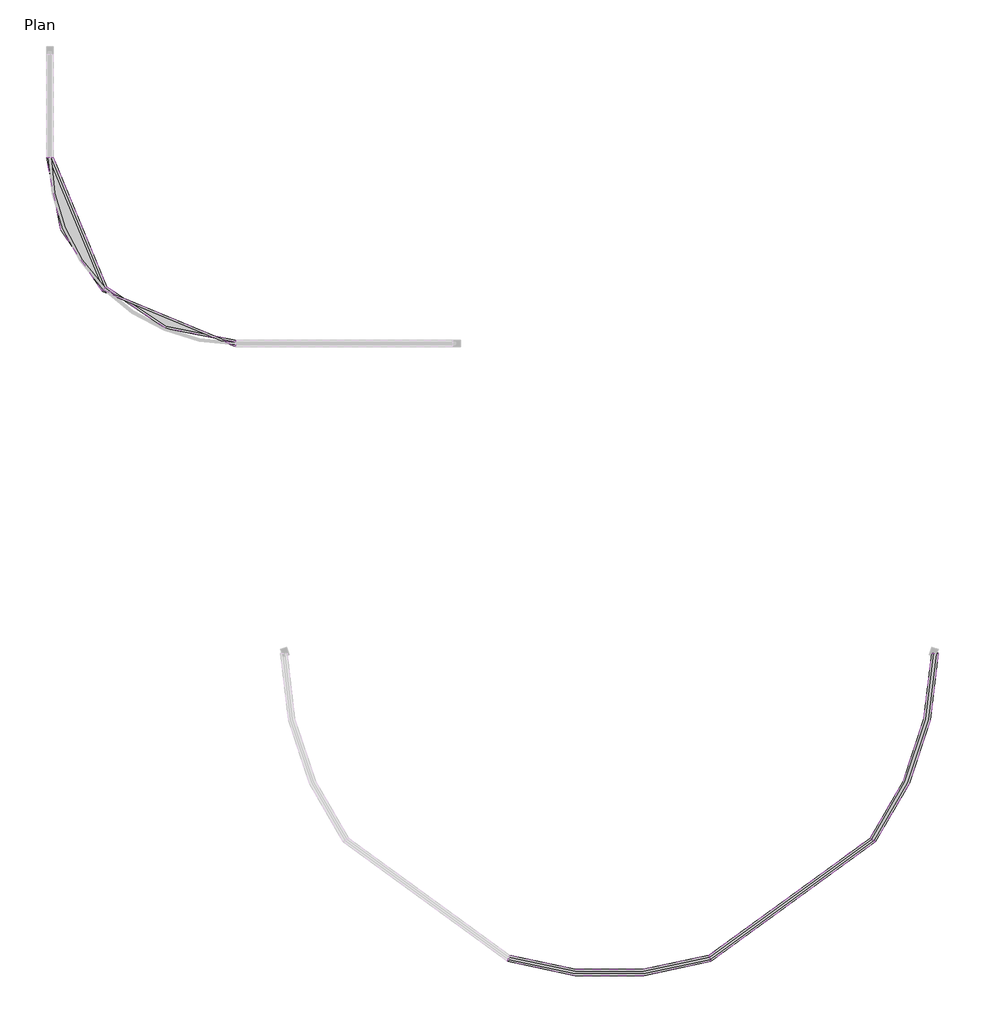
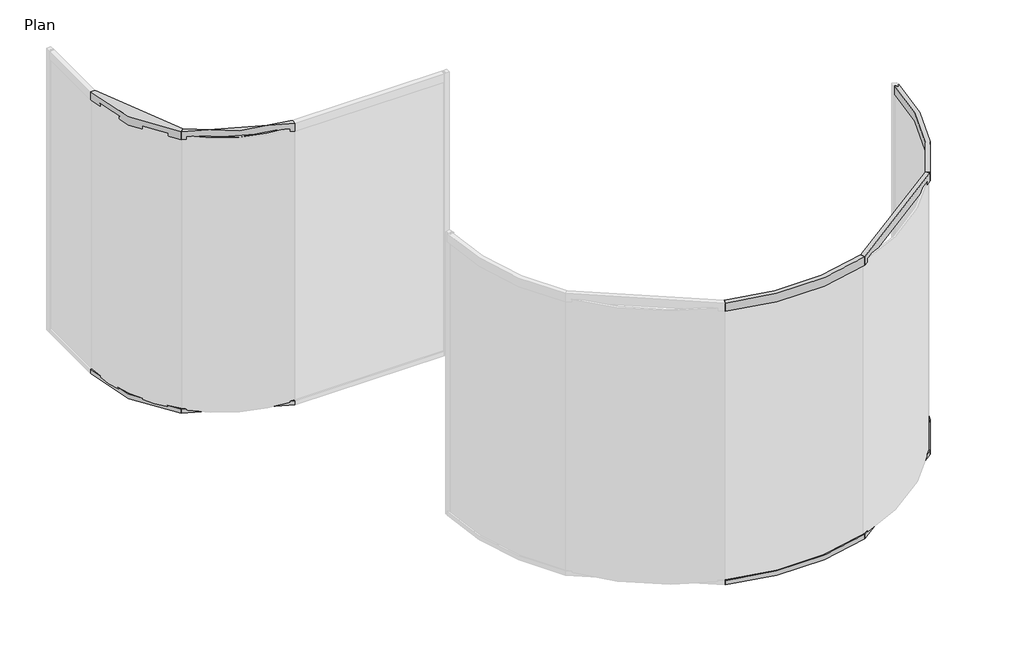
# One storey, part 2 of 2: 10 proxies.
"""IFC4 building model written with IfcOpenShell, lengths in millimetres."""

import ifcopenshell
import ifcopenshell.guid

model = None  # the IFC model being written
_history = None  # IfcOwnerHistory: only IFC2X3 demands one
_inside = {}  # id of a spatial element -> (the spatial element, [elements in it])
_under = {}  # id of a project, library or spatial element -> (it, [spatial elements below it])
_declared = {}  # id of a project -> (the project, [libraries it declares])
_typed = {}  # id of a type object -> (the type object, [elements of that type])
_made_of = {}  # id of a material, layer set ... -> (it, [elements and type objects made of it])


def new_model(schema):
    """Start an empty IFC model of exactly this schema.

    Asked for "IFC4X3", IfcOpenShell would pick the latest addendum, in which some entities
    have other attributes; the version numbers below select the first issue.
    IFC2X3 requires an IfcOwnerHistory on every rooted entity: one is made here for all.
    """
    global model, _history
    if schema == "IFC4X3":
        model = ifcopenshell.file(schema_version=(4, 3, 0, 0))
    else:
        model = ifcopenshell.file(schema=schema)
    _inside.clear()
    _under.clear()
    _declared.clear()
    _typed.clear()
    _made_of.clear()
    _history = None
    if model.schema == "IFC2X3":
        org = make("IfcOrganization", Name="unknown")
        user = make(
            "IfcPersonAndOrganization",
            ThePerson=make("IfcPerson", FamilyName="unknown"),
            TheOrganization=org,
        )
        app = make(
            "IfcApplication",
            ApplicationDeveloper=org,
            Version="unknown",
            ApplicationFullName="unknown",
            ApplicationIdentifier="unknown",
        )
        _history = make(
            "IfcOwnerHistory",
            OwningUser=user,
            OwningApplication=app,
            ChangeAction="ADDED",
            CreationDate=0,
        )
    return model


def make(cls, **values):
    """One entity of the class cls with the attributes given. An attribute that is None is left unset."""
    return model.create_entity(
        cls, **{name: value for name, value in values.items() if value is not None}
    )


def rooted(cls, **values):
    """An entity with a GlobalId (a new one), such as an element, a storey or a relation."""
    return make(cls, GlobalId=ifcopenshell.guid.new(), OwnerHistory=_history, **values)


def si_unit(unit_type, name, prefix=None):
    """IfcSIUnit, for example si_unit("LENGTHUNIT", "METRE", prefix="MILLI")."""
    return make("IfcSIUnit", UnitType=unit_type, Prefix=prefix, Name=name)


def assignment(units):
    """IfcUnitAssignment: the units of a project."""
    return None if units is None else make("IfcUnitAssignment", Units=units)


def point(xyz):
    """IfcCartesianPoint."""
    return None if xyz is None else make("IfcCartesianPoint", Coordinates=xyz)


def direction(xyz):
    """IfcDirection."""
    return None if xyz is None else make("IfcDirection", DirectionRatios=xyz)


def frame(location, z_axis=None, x_axis=None):
    """IfcAxis2Placement3D, a coordinate frame: its origin and axes. An axis left out is left unset."""
    return make(
        "IfcAxis2Placement3D",
        Location=point(location),
        Axis=direction(z_axis),
        RefDirection=direction(x_axis),
    )


def origin():
    """The frame at (0, 0, 0) with its axes left unset."""
    return frame((0.0, 0.0, 0.0))


def place(relative_to, where):
    """IfcLocalPlacement: puts the frame where relative to a parent placement (None: the world)."""
    return make(
        "IfcLocalPlacement", PlacementRelTo=relative_to, RelativePlacement=where
    )


def context(
    kind, dimensions, precision=None, world=None, true_north=None, identifier=None
):
    """IfcGeometricRepresentationContext, for example the 3D "Model" context."""
    return make(
        "IfcGeometricRepresentationContext",
        ContextIdentifier=identifier,
        ContextType=kind,
        CoordinateSpaceDimension=dimensions,
        Precision=precision,
        WorldCoordinateSystem=world,
        TrueNorth=true_north,
    )


def project(units=None, contexts=None):
    """IfcProject with its units and contexts."""
    return rooted(
        "IfcProject",
        Name="project",
        RepresentationContexts=contexts,
        UnitsInContext=assignment(units),
    )


def spatial(cls, under=None, at=None, **own):
    """A site, building, storey or space (cls), placed at a placement, below another one or the project."""
    s = rooted(cls, ObjectPlacement=at, **own)
    if under is not None:
        _under.setdefault(under.id(), (under, []))[1].append(s)
    return s


def polyline(points):
    """IfcPolyline through the points."""
    return make("IfcPolyline", Points=[point(p) for p in points])


def circle_curve(where, radius):
    """IfcCircle in the frame where."""
    return make("IfcCircle", Position=where, Radius=radius)


def shape(context_of_items, identifier, shape_type, items):
    """IfcShapeRepresentation: the items that make up one representation, for example the "Body"."""
    return make(
        "IfcShapeRepresentation",
        ContextOfItems=context_of_items,
        RepresentationIdentifier=identifier,
        RepresentationType=shape_type,
        Items=items,
    )


def made_of(thing, what):
    """Note that an element or type object is made of a material, layer set ...; save() writes the relation."""
    if what is not None:
        _made_of.setdefault(what.id(), (what, []))[1].append(thing)
    return thing


def element(
    cls,
    number,
    at=None,
    inside=None,
    cuts=None,
    type_object=None,
    material=None,
    context=None,
    identifier="Body",
    shape_type=None,
    held_by="IfcProductDefinitionShape",
    body=None,
    shapes=None,
    **own,
):
    """One element of the class cls, such as IfcWall. Its Tag is "e" and its number.

    at: its placement. inside: the storey or other place that contains it. cuts: it is an
    opening in that element (IfcRelVoidsElement). A single representation is given by context,
    identifier, shape_type and body (its items); several are given by shapes. held_by: the class
    of the entity that holds the representations. save() writes the other relations.
    """
    e = rooted(cls, Tag="e%d" % number, ObjectPlacement=at, **own)
    if body is not None:
        shapes = [shape(context, identifier, shape_type, body)]
    if shapes is not None:
        e.Representation = make(held_by, Representations=shapes)
    if inside is not None:
        _inside.setdefault(inside.id(), (inside, []))[1].append(e)
    if cuts is not None:
        rooted(
            "IfcRelVoidsElement", RelatingBuildingElement=cuts, RelatedOpeningElement=e
        )
    if type_object is not None:
        _typed.setdefault(type_object.id(), (type_object, []))[1].append(e)
    return made_of(e, material)


def aggregate(whole, parts):
    """IfcRelAggregates: a whole, such as a stair, and the parts it consists of."""
    return rooted("IfcRelAggregates", RelatingObject=whole, RelatedObjects=parts)


def save(model, path):
    """Write the relations noted so far, then the file.

    IfcRelAggregates (storeys below a building ...), IfcRelContainedInSpatialStructure (elements
    in a storey), IfcRelDefinesByType, IfcRelAssociatesMaterial and IfcRelDeclares: one each for
    every whole, place, type object, material and project.
    """
    for whole, parts in _under.values():
        aggregate(whole, parts)
    for where, things in _inside.values():
        rooted(
            "IfcRelContainedInSpatialStructure",
            RelatedElements=things,
            RelatingStructure=where,
        )
    for kind, things in _typed.values():
        rooted("IfcRelDefinesByType", RelatedObjects=things, RelatingType=kind)
    for what, things in _made_of.values():
        rooted("IfcRelAssociatesMaterial", RelatedObjects=things, RelatingMaterial=what)
    for by, libraries in _declared.values():
        rooted("IfcRelDeclares", RelatingContext=by, RelatedDefinitions=libraries)
    model.write(path)


def plane_surface(at):
    """IfcPlane: the flat surface through the origin of the frame at, square to its z axis."""
    return make("IfcPlane", Position=at)


def cylinder_surface(at, radius):
    """IfcCylindricalSurface: all points at the distance radius from the z axis of the frame at."""
    return make("IfcCylindricalSurface", Position=at, Radius=radius)


def revolved_surface(curve, axis_point, axis_direction):
    """IfcSurfaceOfRevolution: the curve turned about the line through axis_point along axis_direction."""
    return make(
        "IfcSurfaceOfRevolution",
        SweptCurve=make("IfcArbitraryOpenProfileDef", ProfileType="CURVE", Curve=curve),
        AxisPosition=make("IfcAxis1Placement", Location=point(axis_point), Axis=direction(axis_direction)),
    )


def advanced_brep(points, edges, surfaces, faces):
    """IfcAdvancedBrep: a solid bounded by faces that lie on surfaces and meet in shared edges.

    An edge is (start, end): straight between two places in points (the first is 0);
    or (start, end, curve); or (start, end, curve, False) where it runs against its curve.
    A face is (place in surfaces, loops), or (place, loops, False) where it looks against
    its surface's normal. A loop lists edges by number (the first is 1), with a minus sign
    where the edge is run from its end to its start. The first loop is the outer one.
    """
    corners = [point(p) for p in points]
    vertices = [make("IfcVertexPoint", VertexGeometry=c) for c in corners]
    made = []
    for start, end, *more in edges:
        made.append(
            make(
                "IfcEdgeCurve",
                EdgeStart=vertices[start],
                EdgeEnd=vertices[end],
                EdgeGeometry=more[0] if more else make("IfcPolyline", Points=[corners[start], corners[end]]),
                SameSense=more[1] if len(more) > 1 else True,
            )
        )
    hull = []
    for where, loops, *sense in faces:
        bounds = []
        for j, loop in enumerate(loops):
            ring = [make("IfcOrientedEdge", EdgeElement=made[abs(k) - 1], Orientation=k > 0) for k in loop]
            bounds.append(
                make(
                    "IfcFaceOuterBound" if j == 0 else "IfcFaceBound",
                    Bound=make("IfcEdgeLoop", EdgeList=ring),
                    Orientation=True,
                )
            )
        hull.append(make("IfcAdvancedFace", Bounds=bounds, FaceSurface=surfaces[where], SameSense=sense[0] if sense else True))
    return make("IfcAdvancedBrep", Outer=make("IfcClosedShell", CfsFaces=hull))


model = new_model("IFC4")

# Units and contexts
model_context = context("Model", 3, world=origin())
ifc_project = project(units=[si_unit("LENGTHUNIT", "METRE", prefix="MILLI")], contexts=[model_context])

# Site, building, storey
site = spatial("IfcSite", under=ifc_project)
building = spatial("IfcBuilding", under=site)
storey = spatial("IfcBuildingStorey", under=building, Name="Plan", Elevation=10972.8)

# Proxies
placement = place(None, origin())
element("IfcBuildingElementProxy", 1, Name="Wall Sweeps", at=placement, inside=storey, context=model_context, shape_type="AdvancedBrep", body=[
    advanced_brep(
    [(13959.5890345, 11448.9006767, 11004.55), (13966.3242266, 11455.6358688, 11004.55), (13966.3242266, 11455.6358688, 10995.025), (13975.3044827, 11464.616125, 10995.025), (13975.3044827, 11464.616125, 11004.55), (13982.0396748, 11471.3513171, 11004.55), (13982.0396748, 11471.3513171, 10972.8), (13959.5890345, 11448.9006767, 10972.8), (14617.3927954, 11176.4294376, 11004.55), (14617.3927954, 11176.4294376, 10972.8), (14617.3927954, 11208.1794376, 10972.8), (14617.3927954, 11208.1794376, 11004.55), (14617.3927954, 11198.6544376, 11004.55), (14617.3927954, 11198.6544376, 10995.025), (14617.3927954, 11185.9544376, 10995.025), (14617.3927954, 11185.9544376, 11004.55)],
    [
        (0, 1),
        (1, 2),
        (2, 3),
        (3, 4),
        (4, 5),
        (5, 6),
        (6, 7),
        (7, 0),
        (8, 9),
        (9, 10),
        (10, 11),
        (11, 12),
        (12, 13),
        (13, 14),
        (14, 15),
        (15, 8),
        (15, 1, circle_curve(frame((14617.3927954, 12106.7044376, 11004.55), z_axis=(0.0, 0.0, -1.0), x_axis=(-0.7071067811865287, -0.7071067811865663, 0.0)), 920.75)),
        (0, 8, circle_curve(frame((14617.3927954, 12106.7044376, 11004.55), z_axis=(0.0, 0.0, 1.0), x_axis=(-0.7071067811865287, -0.7071067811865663, 0.0)), 930.275)),
        (14, 2, circle_curve(frame((14617.3927954, 12106.7044376, 10995.025), z_axis=(0.0, 0.0, -1.0), x_axis=(-0.7071067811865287, -0.7071067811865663, 0.0)), 920.75)),
        (13, 3, circle_curve(frame((14617.3927954, 12106.7044376, 10995.025), z_axis=(0.0, 0.0, -1.0), x_axis=(-0.7071067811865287, -0.7071067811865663, 0.0)), 908.05)),
        (12, 4, circle_curve(frame((14617.3927954, 12106.7044376, 11004.55), z_axis=(0.0, 0.0, -1.0), x_axis=(-0.7071067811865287, -0.7071067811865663, 0.0)), 908.05)),
        (11, 5, circle_curve(frame((14617.3927954, 12106.7044376, 11004.55), z_axis=(0.0, 0.0, -1.0), x_axis=(-0.7071067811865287, -0.7071067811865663, 0.0)), 898.525)),
        (10, 6, circle_curve(frame((14617.3927954, 12106.7044376, 10972.8), z_axis=(0.0, 0.0, -1.0), x_axis=(-0.7071067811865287, -0.7071067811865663, 0.0)), 898.525)),
        (9, 7, circle_curve(frame((14617.3927954, 12106.7044376, 10972.8), z_axis=(0.0, 0.0, -1.0), x_axis=(-0.7071067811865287, -0.7071067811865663, 0.0)), 930.275)),
    ],
    [
        plane_surface(frame((14617.3927954, 12106.7044376, 10972.8), z_axis=(-0.7071067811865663, 0.7071067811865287, 0.0), x_axis=(-0.7071067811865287, -0.7071067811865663, 0.0))),
        plane_surface(frame((14617.3927954, 12106.7044376, 10972.8), z_axis=(1.0, 0.0, 0.0), x_axis=(0.0, -1.0, 0.0))),
        plane_surface(frame((14617.3927954, 12106.7044376, 11004.55), z_axis=(0.0, 0.0, 1.0), x_axis=(-0.7071067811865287, -0.7071067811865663, 0.0))),
        revolved_surface(polyline([(13966.324226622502, 11455.635868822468, 11004.55), (13966.324226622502, 11455.635868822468, 10995.025)]), (14617.3927954, 12106.7044376, 10972.8), (0.0, 0.0, 1.0)),
        plane_surface(frame((14617.3927954, 12106.7044376, 10995.025), z_axis=(0.0, 0.0, 1.0), x_axis=(-0.7071067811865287, -0.7071067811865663, 0.0))),
        cylinder_surface(frame((14617.3927954, 12106.7044376, 10972.8), z_axis=(0.0, 0.0, 1.0), x_axis=(-0.7071067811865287, -0.7071067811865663, 0.0)), 908.05),
        revolved_surface(polyline([(13982.039674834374, 11471.35131703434, 11004.55), (13982.039674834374, 11471.35131703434, 10972.8)]), (14617.3927954, 12106.7044376, 10972.8), (0.0, 0.0, 1.0)),
        plane_surface(frame((14617.3927954, 12106.7044376, 10972.8), z_axis=(0.0, 0.0, -1.0), x_axis=(-0.7071067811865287, -0.7071067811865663, 0.0))),
        cylinder_surface(frame((14617.3927954, 12106.7044376, 10972.8), z_axis=(0.0, 0.0, 1.0), x_axis=(-0.7071067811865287, -0.7071067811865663, 0.0)), 930.275),
    ],
    [
        (0, [[1, 2, 3, 4, 5, 6, 7, 8]]),
        (1, [[9, 10, 11, 12, 13, 14, 15, 16]]),
        (2, [[17, -1, 18, -16]]),
        (3, [[19, -2, -17, -15]]),
        (4, [[20, -3, -19, -14]]),
        (5, [[21, -4, -20, -13]]),
        (2, [[22, -5, -21, -12]]),
        (6, [[23, -6, -22, -11]]),
        (7, [[24, -7, -23, -10]]),
        (8, [[-18, -8, -24, -9]]),
    ],
),
])
element("IfcBuildingElementProxy", 2, Name="Wall Sweeps", at=placement, inside=storey, context=model_context, shape_type="AdvancedBrep", body=[
    advanced_brep(
    [(13982.0396748, 11471.3513171, 13042.9), (13975.3044827, 11464.616125, 13042.9), (13975.3044827, 11464.616125, 13065.125), (13966.3242266, 11455.6358688, 13065.125), (13966.3242266, 11455.6358688, 13042.9), (13959.5890345, 11448.9006767, 13042.9), (13959.5890345, 11448.9006767, 13106.4), (13982.0396748, 11471.3513171, 13106.4), (14617.3927954, 11208.1794376, 13042.9), (14617.3927954, 11208.1794376, 13106.4), (14617.3927954, 11176.4294376, 13106.4), (14617.3927954, 11176.4294376, 13042.9), (14617.3927954, 11185.9544376, 13042.9), (14617.3927954, 11185.9544376, 13065.125), (14617.3927954, 11198.6544376, 13065.125), (14617.3927954, 11198.6544376, 13042.9)],
    [
        (0, 1),
        (1, 2),
        (2, 3),
        (3, 4),
        (4, 5),
        (5, 6),
        (6, 7),
        (7, 0),
        (8, 9),
        (9, 10),
        (10, 11),
        (11, 12),
        (12, 13),
        (13, 14),
        (14, 15),
        (15, 8),
        (15, 1, circle_curve(frame((14617.3927954, 12106.7044376, 13042.9), z_axis=(0.0, 0.0, -1.0), x_axis=(-0.7071067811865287, -0.7071067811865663, 0.0)), 908.05)),
        (0, 8, circle_curve(frame((14617.3927954, 12106.7044376, 13042.9), z_axis=(0.0, 0.0, 1.0), x_axis=(-0.7071067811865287, -0.7071067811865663, 0.0)), 898.525)),
        (14, 2, circle_curve(frame((14617.3927954, 12106.7044376, 13065.125), z_axis=(0.0, 0.0, -1.0), x_axis=(-0.7071067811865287, -0.7071067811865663, 0.0)), 908.05)),
        (13, 3, circle_curve(frame((14617.3927954, 12106.7044376, 13065.125), z_axis=(0.0, 0.0, -1.0), x_axis=(-0.7071067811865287, -0.7071067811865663, 0.0)), 920.75)),
        (12, 4, circle_curve(frame((14617.3927954, 12106.7044376, 13042.9), z_axis=(0.0, 0.0, -1.0), x_axis=(-0.7071067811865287, -0.7071067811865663, 0.0)), 920.75)),
        (11, 5, circle_curve(frame((14617.3927954, 12106.7044376, 13042.9), z_axis=(0.0, 0.0, -1.0), x_axis=(-0.7071067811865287, -0.7071067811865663, 0.0)), 930.275)),
        (10, 6, circle_curve(frame((14617.3927954, 12106.7044376, 13106.4), z_axis=(0.0, 0.0, -1.0), x_axis=(-0.7071067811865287, -0.7071067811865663, 0.0)), 930.275)),
        (9, 7, circle_curve(frame((14617.3927954, 12106.7044376, 13106.4), z_axis=(0.0, 0.0, -1.0), x_axis=(-0.7071067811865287, -0.7071067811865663, 0.0)), 898.525)),
    ],
    [
        plane_surface(frame((14617.3927954, 12106.7044376, 13106.4), z_axis=(-0.7071067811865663, 0.7071067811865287, 0.0), x_axis=(-0.7071067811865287, -0.7071067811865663, 0.0))),
        plane_surface(frame((14617.3927954, 12106.7044376, 13106.4), z_axis=(1.0, 0.0, 0.0), x_axis=(0.0, -1.0, 0.0))),
        plane_surface(frame((14617.3927954, 12106.7044376, 13042.9), z_axis=(0.0, 0.0, -1.0), x_axis=(-0.7071067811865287, -0.7071067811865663, 0.0))),
        cylinder_surface(frame((14617.3927954, 12106.7044376, 13106.4), z_axis=(0.0, 0.0, 1.0), x_axis=(-0.7071067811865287, -0.7071067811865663, 0.0)), 908.05),
        plane_surface(frame((14617.3927954, 12106.7044376, 13065.125), z_axis=(0.0, 0.0, -1.0), x_axis=(-0.7071067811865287, -0.7071067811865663, 0.0))),
        revolved_surface(polyline([(13966.324226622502, 11455.635868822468, 13065.125), (13966.324226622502, 11455.635868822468, 13042.9)]), (14617.3927954, 12106.7044376, 13106.4), (0.0, 0.0, 1.0)),
        cylinder_surface(frame((14617.3927954, 12106.7044376, 13106.4), z_axis=(0.0, 0.0, 1.0), x_axis=(-0.7071067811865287, -0.7071067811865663, 0.0)), 930.275),
        plane_surface(frame((14617.3927954, 12106.7044376, 13106.4), z_axis=(0.0, 0.0, 1.0), x_axis=(-0.7071067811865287, -0.7071067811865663, 0.0))),
        revolved_surface(polyline([(13982.039674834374, 11471.35131703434, 13106.4), (13982.039674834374, 11471.35131703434, 13042.9)]), (14617.3927954, 12106.7044376, 13106.4), (0.0, 0.0, 1.0)),
    ],
    [
        (0, [[1, 2, 3, 4, 5, 6, 7, 8]]),
        (1, [[9, 10, 11, 12, 13, 14, 15, 16]]),
        (2, [[17, -1, 18, -16]]),
        (3, [[19, -2, -17, -15]]),
        (4, [[20, -3, -19, -14]]),
        (5, [[21, -4, -20, -13]]),
        (2, [[22, -5, -21, -12]]),
        (6, [[23, -6, -22, -11]]),
        (7, [[24, -7, -23, -10]]),
        (8, [[-18, -8, -24, -9]]),
    ],
),
])
element("IfcBuildingElementProxy", 3, Name="Wall Sweeps", at=placement, inside=storey, context=model_context, shape_type="AdvancedBrep", body=[
    advanced_brep(
    [(13687.1177954, 12106.7044376, 11004.55), (13696.6427954, 12106.7044376, 11004.55), (13696.6427954, 12106.7044376, 10995.025), (13709.3427954, 12106.7044376, 10995.025), (13709.3427954, 12106.7044376, 11004.55), (13718.8677954, 12106.7044376, 11004.55), (13718.8677954, 12106.7044376, 10972.8), (13687.1177954, 12106.7044376, 10972.8), (13959.5890345, 11448.9006767, 11004.55), (13959.5890345, 11448.9006767, 10972.8), (13982.0396748, 11471.3513171, 10972.8), (13982.0396748, 11471.3513171, 11004.55), (13975.3044827, 11464.616125, 11004.55), (13975.3044827, 11464.616125, 10995.025), (13966.3242266, 11455.6358688, 10995.025), (13966.3242266, 11455.6358688, 11004.55)],
    [
        (0, 1),
        (1, 2),
        (2, 3),
        (3, 4),
        (4, 5),
        (5, 6),
        (6, 7),
        (7, 0),
        (8, 9),
        (9, 10),
        (10, 11),
        (11, 12),
        (12, 13),
        (13, 14),
        (14, 15),
        (15, 8),
        (15, 1, circle_curve(frame((14617.3927954, 12106.7044376, 11004.55), z_axis=(0.0, 0.0, -1.0), x_axis=(-1.0, 0.0, 0.0)), 920.75)),
        (0, 8, circle_curve(frame((14617.3927954, 12106.7044376, 11004.55), z_axis=(0.0, 0.0, 1.0), x_axis=(-1.0, 0.0, 0.0)), 930.275)),
        (14, 2, circle_curve(frame((14617.3927954, 12106.7044376, 10995.025), z_axis=(0.0, 0.0, -1.0), x_axis=(-1.0, 0.0, 0.0)), 920.75)),
        (13, 3, circle_curve(frame((14617.3927954, 12106.7044376, 10995.025), z_axis=(0.0, 0.0, -1.0), x_axis=(-1.0, 0.0, 0.0)), 908.05)),
        (12, 4, circle_curve(frame((14617.3927954, 12106.7044376, 11004.55), z_axis=(0.0, 0.0, -1.0), x_axis=(-1.0, 0.0, 0.0)), 908.05)),
        (11, 5, circle_curve(frame((14617.3927954, 12106.7044376, 11004.55), z_axis=(0.0, 0.0, -1.0), x_axis=(-1.0, 0.0, 0.0)), 898.525)),
        (10, 6, circle_curve(frame((14617.3927954, 12106.7044376, 10972.8), z_axis=(0.0, 0.0, -1.0), x_axis=(-1.0, 0.0, 0.0)), 898.525)),
        (9, 7, circle_curve(frame((14617.3927954, 12106.7044376, 10972.8), z_axis=(0.0, 0.0, -1.0), x_axis=(-1.0, 0.0, 0.0)), 930.275)),
    ],
    [
        plane_surface(frame((14617.3927954, 12106.7044376, 10972.8), z_axis=(0.0, 1.0, 0.0), x_axis=(-1.0, 0.0, 0.0))),
        plane_surface(frame((14617.3927954, 12106.7044376, 10972.8), z_axis=(0.7071067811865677, -0.7071067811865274, 0.0), x_axis=(-0.7071067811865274, -0.7071067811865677, 0.0))),
        plane_surface(frame((14617.3927954, 12106.7044376, 11004.55), z_axis=(0.0, 0.0, 1.0), x_axis=(-1.0, 0.0, 0.0))),
        revolved_surface(polyline([(13696.6427954, 12106.7044376, 11004.55), (13696.6427954, 12106.7044376, 10995.025)]), (14617.3927954, 12106.7044376, 10972.8), (0.0, 0.0, 1.0)),
        plane_surface(frame((14617.3927954, 12106.7044376, 10995.025), z_axis=(0.0, 0.0, 1.0), x_axis=(-1.0, 0.0, 0.0))),
        cylinder_surface(frame((14617.3927954, 12106.7044376, 10972.8), z_axis=(0.0, 0.0, 1.0), x_axis=(-1.0, 0.0, 0.0)), 908.05),
        revolved_surface(polyline([(13718.8677954, 12106.7044376, 11004.55), (13718.8677954, 12106.7044376, 10972.8)]), (14617.3927954, 12106.7044376, 10972.8), (0.0, 0.0, 1.0)),
        plane_surface(frame((14617.3927954, 12106.7044376, 10972.8), z_axis=(0.0, 0.0, -1.0), x_axis=(-1.0, 0.0, 0.0))),
        cylinder_surface(frame((14617.3927954, 12106.7044376, 10972.8), z_axis=(0.0, 0.0, 1.0), x_axis=(-1.0, 0.0, 0.0)), 930.275),
    ],
    [
        (0, [[1, 2, 3, 4, 5, 6, 7, 8]]),
        (1, [[9, 10, 11, 12, 13, 14, 15, 16]]),
        (2, [[17, -1, 18, -16]]),
        (3, [[19, -2, -17, -15]]),
        (4, [[20, -3, -19, -14]]),
        (5, [[21, -4, -20, -13]]),
        (2, [[22, -5, -21, -12]]),
        (6, [[23, -6, -22, -11]]),
        (7, [[24, -7, -23, -10]]),
        (8, [[-18, -8, -24, -9]]),
    ],
),
])
element("IfcBuildingElementProxy", 4, Name="Wall Sweeps", at=placement, inside=storey, context=model_context, shape_type="AdvancedBrep", body=[
    advanced_brep(
    [(13718.8677954, 12106.7044376, 13042.9), (13709.3427954, 12106.7044376, 13042.9), (13709.3427954, 12106.7044376, 13065.125), (13696.6427954, 12106.7044376, 13065.125), (13696.6427954, 12106.7044376, 13042.9), (13687.1177954, 12106.7044376, 13042.9), (13687.1177954, 12106.7044376, 13106.4), (13718.8677954, 12106.7044376, 13106.4), (13982.0396748, 11471.3513171, 13042.9), (13982.0396748, 11471.3513171, 13106.4), (13959.5890345, 11448.9006767, 13106.4), (13959.5890345, 11448.9006767, 13042.9), (13966.3242266, 11455.6358688, 13042.9), (13966.3242266, 11455.6358688, 13065.125), (13975.3044827, 11464.616125, 13065.125), (13975.3044827, 11464.616125, 13042.9)],
    [
        (0, 1),
        (1, 2),
        (2, 3),
        (3, 4),
        (4, 5),
        (5, 6),
        (6, 7),
        (7, 0),
        (8, 9),
        (9, 10),
        (10, 11),
        (11, 12),
        (12, 13),
        (13, 14),
        (14, 15),
        (15, 8),
        (15, 1, circle_curve(frame((14617.3927954, 12106.7044376, 13042.9), z_axis=(0.0, 0.0, -1.0), x_axis=(-1.0, 0.0, 0.0)), 908.05)),
        (0, 8, circle_curve(frame((14617.3927954, 12106.7044376, 13042.9), z_axis=(0.0, 0.0, 1.0), x_axis=(-1.0, 0.0, 0.0)), 898.525)),
        (14, 2, circle_curve(frame((14617.3927954, 12106.7044376, 13065.125), z_axis=(0.0, 0.0, -1.0), x_axis=(-1.0, 0.0, 0.0)), 908.05)),
        (13, 3, circle_curve(frame((14617.3927954, 12106.7044376, 13065.125), z_axis=(0.0, 0.0, -1.0), x_axis=(-1.0, 0.0, 0.0)), 920.75)),
        (12, 4, circle_curve(frame((14617.3927954, 12106.7044376, 13042.9), z_axis=(0.0, 0.0, -1.0), x_axis=(-1.0, 0.0, 0.0)), 920.75)),
        (11, 5, circle_curve(frame((14617.3927954, 12106.7044376, 13042.9), z_axis=(0.0, 0.0, -1.0), x_axis=(-1.0, 0.0, 0.0)), 930.275)),
        (10, 6, circle_curve(frame((14617.3927954, 12106.7044376, 13106.4), z_axis=(0.0, 0.0, -1.0), x_axis=(-1.0, 0.0, 0.0)), 930.275)),
        (9, 7, circle_curve(frame((14617.3927954, 12106.7044376, 13106.4), z_axis=(0.0, 0.0, -1.0), x_axis=(-1.0, 0.0, 0.0)), 898.525)),
    ],
    [
        plane_surface(frame((14617.3927954, 12106.7044376, 13106.4), z_axis=(0.0, 1.0, 0.0), x_axis=(-1.0, 0.0, 0.0))),
        plane_surface(frame((14617.3927954, 12106.7044376, 13106.4), z_axis=(0.7071067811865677, -0.7071067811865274, 0.0), x_axis=(-0.7071067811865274, -0.7071067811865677, 0.0))),
        plane_surface(frame((14617.3927954, 12106.7044376, 13042.9), z_axis=(0.0, 0.0, -1.0), x_axis=(-1.0, 0.0, 0.0))),
        cylinder_surface(frame((14617.3927954, 12106.7044376, 13106.4), z_axis=(0.0, 0.0, 1.0), x_axis=(-1.0, 0.0, 0.0)), 908.05),
        plane_surface(frame((14617.3927954, 12106.7044376, 13065.125), z_axis=(0.0, 0.0, -1.0), x_axis=(-1.0, 0.0, 0.0))),
        revolved_surface(polyline([(13696.6427954, 12106.7044376, 13065.125), (13696.6427954, 12106.7044376, 13042.9)]), (14617.3927954, 12106.7044376, 13106.4), (0.0, 0.0, 1.0)),
        cylinder_surface(frame((14617.3927954, 12106.7044376, 13106.4), z_axis=(0.0, 0.0, 1.0), x_axis=(-1.0, 0.0, 0.0)), 930.275),
        plane_surface(frame((14617.3927954, 12106.7044376, 13106.4), z_axis=(0.0, 0.0, 1.0), x_axis=(-1.0, 0.0, 0.0))),
        revolved_surface(polyline([(13718.8677954, 12106.7044376, 13106.4), (13718.8677954, 12106.7044376, 13042.9)]), (14617.3927954, 12106.7044376, 13106.4), (0.0, 0.0, 1.0)),
    ],
    [
        (0, [[1, 2, 3, 4, 5, 6, 7, 8]]),
        (1, [[9, 10, 11, 12, 13, 14, 15, 16]]),
        (2, [[17, -1, 18, -16]]),
        (3, [[19, -2, -17, -15]]),
        (4, [[20, -3, -19, -14]]),
        (5, [[21, -4, -20, -13]]),
        (2, [[22, -5, -21, -12]]),
        (6, [[23, -6, -22, -11]]),
        (7, [[24, -7, -23, -10]]),
        (8, [[-18, -8, -24, -9]]),
    ],
),
])
element("IfcBuildingElementProxy", 5, Name="Wall Sweeps", at=placement, inside=storey, context=model_context, shape_type="AdvancedBrep", body=[
    advanced_brep(
    [(17760.1923581, 8744.306162, 11004.55), (17752.4864712, 8749.9048166, 11004.55), (17752.4864712, 8749.9048166, 10995.025), (17742.2119554, 8757.3696893, 10995.025), (17742.2119554, 8757.3696893, 11004.55), (17734.5060685, 8762.9683438, 11004.55), (17734.5060685, 8762.9683438, 10972.8), (17760.1923581, 8744.306162, 10972.8), (18068.6492854, 9669.6972931, 11004.55), (18068.6492854, 9669.6972931, 10972.8), (18036.9029383, 9670.1789026, 10972.8), (18036.9029383, 9670.1789026, 11004.55), (18046.4268424, 9670.0344197, 11004.55), (18046.4268424, 9670.0344197, 10995.025), (18059.1253813, 9669.8417759, 10995.025), (18059.1253813, 9669.8417759, 11004.55)],
    [
        (0, 1),
        (1, 2),
        (2, 3),
        (3, 4),
        (4, 5),
        (5, 6),
        (6, 7),
        (7, 0),
        (8, 9),
        (9, 10),
        (10, 11),
        (11, 12),
        (12, 13),
        (13, 14),
        (14, 15),
        (15, 8),
        (15, 1, circle_curve(frame((16452.7602195, 9694.2112144, 11004.55), z_axis=(0.0, 0.0, -1.0), x_axis=(0.8090169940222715, -0.58778525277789, 0.0)), 1606.55)),
        (0, 8, circle_curve(frame((16452.7602195, 9694.2112144, 11004.55), z_axis=(0.0, 0.0, 1.0), x_axis=(0.8090169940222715, -0.58778525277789, 0.0)), 1616.075)),
        (14, 2, circle_curve(frame((16452.7602195, 9694.2112144, 10995.025), z_axis=(0.0, 0.0, -1.0), x_axis=(0.8090169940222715, -0.58778525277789, 0.0)), 1606.55)),
        (13, 3, circle_curve(frame((16452.7602195, 9694.2112144, 10995.025), z_axis=(0.0, 0.0, -1.0), x_axis=(0.8090169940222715, -0.58778525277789, 0.0)), 1593.85)),
        (12, 4, circle_curve(frame((16452.7602195, 9694.2112144, 11004.55), z_axis=(0.0, 0.0, -1.0), x_axis=(0.8090169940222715, -0.58778525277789, 0.0)), 1593.85)),
        (11, 5, circle_curve(frame((16452.7602195, 9694.2112144, 11004.55), z_axis=(0.0, 0.0, -1.0), x_axis=(0.8090169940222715, -0.58778525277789, 0.0)), 1584.325)),
        (10, 6, circle_curve(frame((16452.7602195, 9694.2112144, 10972.8), z_axis=(0.0, 0.0, -1.0), x_axis=(0.8090169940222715, -0.58778525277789, 0.0)), 1584.325)),
        (9, 7, circle_curve(frame((16452.7602195, 9694.2112144, 10972.8), z_axis=(0.0, 0.0, -1.0), x_axis=(0.8090169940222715, -0.58778525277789, 0.0)), 1616.075)),
    ],
    [
        plane_surface(frame((16452.7602195, 9694.2112144, 10972.8), z_axis=(-0.58778525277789, -0.8090169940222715, 0.0), x_axis=(0.8090169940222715, -0.58778525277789, 0.0))),
        plane_surface(frame((16452.7602195, 9694.2112144, 10972.8), z_axis=(0.015168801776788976, 0.9998849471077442, 0.0), x_axis=(0.9998849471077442, -0.015168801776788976, 0.0))),
        plane_surface(frame((16452.7602195, 9694.2112144, 11004.55), z_axis=(0.0, 0.0, 1.0), x_axis=(0.8090169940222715, -0.58778525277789, 0.0))),
        revolved_surface(polyline([(17752.48647124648, 8749.90481654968, 11004.55), (17752.48647124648, 8749.90481654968, 10995.025)]), (16452.7602195, 9694.2112144, 10972.8), (0.0, 0.0, 1.0)),
        plane_surface(frame((16452.7602195, 9694.2112144, 10995.025), z_axis=(0.0, 0.0, 1.0), x_axis=(0.8090169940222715, -0.58778525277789, 0.0))),
        cylinder_surface(frame((16452.7602195, 9694.2112144, 10972.8), z_axis=(0.0, 0.0, 1.0), x_axis=(0.8090169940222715, -0.58778525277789, 0.0)), 1593.85),
        revolved_surface(polyline([(17734.506068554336, 8762.96834379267, 11004.55), (17734.506068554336, 8762.96834379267, 10972.8)]), (16452.7602195, 9694.2112144, 10972.8), (0.0, 0.0, 1.0)),
        plane_surface(frame((16452.7602195, 9694.2112144, 10972.8), z_axis=(0.0, 0.0, -1.0), x_axis=(0.8090169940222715, -0.58778525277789, 0.0))),
        cylinder_surface(frame((16452.7602195, 9694.2112144, 10972.8), z_axis=(0.0, 0.0, 1.0), x_axis=(0.8090169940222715, -0.58778525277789, 0.0)), 1616.075),
    ],
    [
        (0, [[1, 2, 3, 4, 5, 6, 7, 8]]),
        (1, [[9, 10, 11, 12, 13, 14, 15, 16]]),
        (2, [[17, -1, 18, -16]]),
        (3, [[19, -2, -17, -15]]),
        (4, [[20, -3, -19, -14]]),
        (5, [[21, -4, -20, -13]]),
        (2, [[22, -5, -21, -12]]),
        (6, [[23, -6, -22, -11]]),
        (7, [[24, -7, -23, -10]]),
        (8, [[-18, -8, -24, -9]]),
    ],
),
])
element("IfcBuildingElementProxy", 6, Name="Wall Sweeps", at=placement, inside=storey, context=model_context, shape_type="AdvancedBrep", body=[
    advanced_brep(
    [(17734.5060685, 8762.9683438, 13042.9), (17742.2119554, 8757.3696893, 13042.9), (17742.2119554, 8757.3696893, 13065.125), (17752.4864712, 8749.9048166, 13065.125), (17752.4864712, 8749.9048166, 13042.9), (17760.1923581, 8744.306162, 13042.9), (17760.1923581, 8744.306162, 13106.4), (17734.5060685, 8762.9683438, 13106.4), (18036.9029383, 9670.1789026, 13042.9), (18036.9029383, 9670.1789026, 13106.4), (18068.6492854, 9669.6972931, 13106.4), (18068.6492854, 9669.6972931, 13042.9), (18059.1253813, 9669.8417759, 13042.9), (18059.1253813, 9669.8417759, 13065.125), (18046.4268424, 9670.0344197, 13065.125), (18046.4268424, 9670.0344197, 13042.9)],
    [
        (0, 1),
        (1, 2),
        (2, 3),
        (3, 4),
        (4, 5),
        (5, 6),
        (6, 7),
        (7, 0),
        (8, 9),
        (9, 10),
        (10, 11),
        (11, 12),
        (12, 13),
        (13, 14),
        (14, 15),
        (15, 8),
        (15, 1, circle_curve(frame((16452.7602195, 9694.2112144, 13042.9), z_axis=(0.0, 0.0, -1.0), x_axis=(0.8090169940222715, -0.58778525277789, 0.0)), 1593.85)),
        (0, 8, circle_curve(frame((16452.7602195, 9694.2112144, 13042.9), z_axis=(0.0, 0.0, 1.0), x_axis=(0.8090169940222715, -0.58778525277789, 0.0)), 1584.325)),
        (14, 2, circle_curve(frame((16452.7602195, 9694.2112144, 13065.125), z_axis=(0.0, 0.0, -1.0), x_axis=(0.8090169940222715, -0.58778525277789, 0.0)), 1593.85)),
        (13, 3, circle_curve(frame((16452.7602195, 9694.2112144, 13065.125), z_axis=(0.0, 0.0, -1.0), x_axis=(0.8090169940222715, -0.58778525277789, 0.0)), 1606.55)),
        (12, 4, circle_curve(frame((16452.7602195, 9694.2112144, 13042.9), z_axis=(0.0, 0.0, -1.0), x_axis=(0.8090169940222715, -0.58778525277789, 0.0)), 1606.55)),
        (11, 5, circle_curve(frame((16452.7602195, 9694.2112144, 13042.9), z_axis=(0.0, 0.0, -1.0), x_axis=(0.8090169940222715, -0.58778525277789, 0.0)), 1616.075)),
        (10, 6, circle_curve(frame((16452.7602195, 9694.2112144, 13106.4), z_axis=(0.0, 0.0, -1.0), x_axis=(0.8090169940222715, -0.58778525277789, 0.0)), 1616.075)),
        (9, 7, circle_curve(frame((16452.7602195, 9694.2112144, 13106.4), z_axis=(0.0, 0.0, -1.0), x_axis=(0.8090169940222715, -0.58778525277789, 0.0)), 1584.325)),
    ],
    [
        plane_surface(frame((16452.7602195, 9694.2112144, 13106.4), z_axis=(-0.58778525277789, -0.8090169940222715, 0.0), x_axis=(0.8090169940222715, -0.58778525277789, 0.0))),
        plane_surface(frame((16452.7602195, 9694.2112144, 13106.4), z_axis=(0.015168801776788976, 0.9998849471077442, 0.0), x_axis=(0.9998849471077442, -0.015168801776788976, 0.0))),
        plane_surface(frame((16452.7602195, 9694.2112144, 13042.9), z_axis=(0.0, 0.0, -1.0), x_axis=(0.8090169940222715, -0.58778525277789, 0.0))),
        cylinder_surface(frame((16452.7602195, 9694.2112144, 13106.4), z_axis=(0.0, 0.0, 1.0), x_axis=(0.8090169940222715, -0.58778525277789, 0.0)), 1593.85),
        plane_surface(frame((16452.7602195, 9694.2112144, 13065.125), z_axis=(0.0, 0.0, -1.0), x_axis=(0.8090169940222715, -0.58778525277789, 0.0))),
        revolved_surface(polyline([(17752.48647124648, 8749.90481654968, 13065.125), (17752.48647124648, 8749.90481654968, 13042.9)]), (16452.7602195, 9694.2112144, 13106.4), (0.0, 0.0, 1.0)),
        cylinder_surface(frame((16452.7602195, 9694.2112144, 13106.4), z_axis=(0.0, 0.0, 1.0), x_axis=(0.8090169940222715, -0.58778525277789, 0.0)), 1616.075),
        plane_surface(frame((16452.7602195, 9694.2112144, 13106.4), z_axis=(0.0, 0.0, 1.0), x_axis=(0.8090169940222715, -0.58778525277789, 0.0))),
        revolved_surface(polyline([(17734.506068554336, 8762.96834379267, 13106.4), (17734.506068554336, 8762.96834379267, 13042.9)]), (16452.7602195, 9694.2112144, 13106.4), (0.0, 0.0, 1.0)),
    ],
    [
        (0, [[1, 2, 3, 4, 5, 6, 7, 8]]),
        (1, [[9, 10, 11, 12, 13, 14, 15, 16]]),
        (2, [[17, -1, 18, -16]]),
        (3, [[19, -2, -17, -15]]),
        (4, [[20, -3, -19, -14]]),
        (5, [[21, -4, -20, -13]]),
        (2, [[22, -5, -21, -12]]),
        (6, [[23, -6, -22, -11]]),
        (7, [[24, -7, -23, -10]]),
        (8, [[-18, -8, -24, -9]]),
    ],
),
])
element("IfcBuildingElementProxy", 7, Name="Wall Sweeps", at=placement, inside=storey, context=model_context, shape_type="AdvancedBrep", body=[
    advanced_brep(
    [(16952.1548584, 8157.2325548, 11004.55), (16949.2114715, 8166.2913681, 11004.55), (16949.2114715, 8166.2913681, 10995.025), (16945.2869557, 8178.3697858, 10995.025), (16945.2869557, 8178.3697858, 11004.55), (16942.3435688, 8187.4285992, 11004.55), (16942.3435688, 8187.4285992, 10972.8), (16952.1548584, 8157.2325548, 10972.8), (17760.1923581, 8744.306162, 11004.55), (17760.1923581, 8744.306162, 10972.8), (17734.5060685, 8762.9683438, 10972.8), (17734.5060685, 8762.9683438, 11004.55), (17742.2119554, 8757.3696893, 11004.55), (17742.2119554, 8757.3696893, 10995.025), (17752.4864712, 8749.9048166, 10995.025), (17752.4864712, 8749.9048166, 11004.55)],
    [
        (0, 1),
        (1, 2),
        (2, 3),
        (3, 4),
        (4, 5),
        (5, 6),
        (6, 7),
        (7, 0),
        (8, 9),
        (9, 10),
        (10, 11),
        (11, 12),
        (12, 13),
        (13, 14),
        (14, 15),
        (15, 8),
        (15, 1, circle_curve(frame((16452.7602195, 9694.2112144, 11004.55), z_axis=(0.0, 0.0, -1.0), x_axis=(0.30901699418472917, -0.9510565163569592, 0.0)), 1606.55)),
        (0, 8, circle_curve(frame((16452.7602195, 9694.2112144, 11004.55), z_axis=(0.0, 0.0, 1.0), x_axis=(0.30901699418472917, -0.9510565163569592, 0.0)), 1616.075)),
        (14, 2, circle_curve(frame((16452.7602195, 9694.2112144, 10995.025), z_axis=(0.0, 0.0, -1.0), x_axis=(0.30901699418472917, -0.9510565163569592, 0.0)), 1606.55)),
        (13, 3, circle_curve(frame((16452.7602195, 9694.2112144, 10995.025), z_axis=(0.0, 0.0, -1.0), x_axis=(0.30901699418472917, -0.9510565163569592, 0.0)), 1593.85)),
        (12, 4, circle_curve(frame((16452.7602195, 9694.2112144, 11004.55), z_axis=(0.0, 0.0, -1.0), x_axis=(0.30901699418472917, -0.9510565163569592, 0.0)), 1593.85)),
        (11, 5, circle_curve(frame((16452.7602195, 9694.2112144, 11004.55), z_axis=(0.0, 0.0, -1.0), x_axis=(0.30901699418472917, -0.9510565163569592, 0.0)), 1584.325)),
        (10, 6, circle_curve(frame((16452.7602195, 9694.2112144, 10972.8), z_axis=(0.0, 0.0, -1.0), x_axis=(0.30901699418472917, -0.9510565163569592, 0.0)), 1584.325)),
        (9, 7, circle_curve(frame((16452.7602195, 9694.2112144, 10972.8), z_axis=(0.0, 0.0, -1.0), x_axis=(0.30901699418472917, -0.9510565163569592, 0.0)), 1616.075)),
    ],
    [
        plane_surface(frame((16452.7602195, 9694.2112144, 10972.8), z_axis=(-0.9510565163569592, -0.30901699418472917, 0.0), x_axis=(0.30901699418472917, -0.9510565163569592, 0.0))),
        plane_surface(frame((16452.7602195, 9694.2112144, 10972.8), z_axis=(0.58778525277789, 0.8090169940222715, 0.0), x_axis=(0.8090169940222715, -0.58778525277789, 0.0))),
        plane_surface(frame((16452.7602195, 9694.2112144, 11004.55), z_axis=(0.0, 0.0, 1.0), x_axis=(0.30901699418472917, -0.9510565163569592, 0.0))),
        revolved_surface(polyline([(16949.211471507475, 8166.291368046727, 11004.55), (16949.211471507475, 8166.291368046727, 10995.025)]), (16452.7602195, 9694.2112144, 10972.8), (0.0, 0.0, 1.0)),
        plane_surface(frame((16452.7602195, 9694.2112144, 10995.025), z_axis=(0.0, 0.0, 1.0), x_axis=(0.30901699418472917, -0.9510565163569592, 0.0))),
        cylinder_surface(frame((16452.7602195, 9694.2112144, 10972.8), z_axis=(0.0, 0.0, 1.0), x_axis=(0.30901699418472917, -0.9510565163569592, 0.0)), 1593.85),
        revolved_surface(polyline([(16942.34356881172, 8187.428599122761, 11004.55), (16942.34356881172, 8187.428599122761, 10972.8)]), (16452.7602195, 9694.2112144, 10972.8), (0.0, 0.0, 1.0)),
        plane_surface(frame((16452.7602195, 9694.2112144, 10972.8), z_axis=(0.0, 0.0, -1.0), x_axis=(0.30901699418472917, -0.9510565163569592, 0.0))),
        cylinder_surface(frame((16452.7602195, 9694.2112144, 10972.8), z_axis=(0.0, 0.0, 1.0), x_axis=(0.30901699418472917, -0.9510565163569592, 0.0)), 1616.075),
    ],
    [
        (0, [[1, 2, 3, 4, 5, 6, 7, 8]]),
        (1, [[9, 10, 11, 12, 13, 14, 15, 16]]),
        (2, [[17, -1, 18, -16]]),
        (3, [[19, -2, -17, -15]]),
        (4, [[20, -3, -19, -14]]),
        (5, [[21, -4, -20, -13]]),
        (2, [[22, -5, -21, -12]]),
        (6, [[23, -6, -22, -11]]),
        (7, [[24, -7, -23, -10]]),
        (8, [[-18, -8, -24, -9]]),
    ],
),
])
element("IfcBuildingElementProxy", 8, Name="Wall Sweeps", at=placement, inside=storey, context=model_context, shape_type="AdvancedBrep", body=[
    advanced_brep(
    [(16942.3435688, 8187.4285992, 13042.9), (16945.2869557, 8178.3697858, 13042.9), (16945.2869557, 8178.3697858, 13065.125), (16949.2114715, 8166.2913681, 13065.125), (16949.2114715, 8166.2913681, 13042.9), (16952.1548584, 8157.2325548, 13042.9), (16952.1548584, 8157.2325548, 13106.4), (16942.3435688, 8187.4285992, 13106.4), (17734.5060685, 8762.9683438, 13042.9), (17734.5060685, 8762.9683438, 13106.4), (17760.1923581, 8744.306162, 13106.4), (17760.1923581, 8744.306162, 13042.9), (17752.4864712, 8749.9048166, 13042.9), (17752.4864712, 8749.9048166, 13065.125), (17742.2119554, 8757.3696893, 13065.125), (17742.2119554, 8757.3696893, 13042.9)],
    [
        (0, 1),
        (1, 2),
        (2, 3),
        (3, 4),
        (4, 5),
        (5, 6),
        (6, 7),
        (7, 0),
        (8, 9),
        (9, 10),
        (10, 11),
        (11, 12),
        (12, 13),
        (13, 14),
        (14, 15),
        (15, 8),
        (15, 1, circle_curve(frame((16452.7602195, 9694.2112144, 13042.9), z_axis=(0.0, 0.0, -1.0), x_axis=(0.30901699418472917, -0.9510565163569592, 0.0)), 1593.85)),
        (0, 8, circle_curve(frame((16452.7602195, 9694.2112144, 13042.9), z_axis=(0.0, 0.0, 1.0), x_axis=(0.30901699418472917, -0.9510565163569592, 0.0)), 1584.325)),
        (14, 2, circle_curve(frame((16452.7602195, 9694.2112144, 13065.125), z_axis=(0.0, 0.0, -1.0), x_axis=(0.30901699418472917, -0.9510565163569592, 0.0)), 1593.85)),
        (13, 3, circle_curve(frame((16452.7602195, 9694.2112144, 13065.125), z_axis=(0.0, 0.0, -1.0), x_axis=(0.30901699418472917, -0.9510565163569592, 0.0)), 1606.55)),
        (12, 4, circle_curve(frame((16452.7602195, 9694.2112144, 13042.9), z_axis=(0.0, 0.0, -1.0), x_axis=(0.30901699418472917, -0.9510565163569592, 0.0)), 1606.55)),
        (11, 5, circle_curve(frame((16452.7602195, 9694.2112144, 13042.9), z_axis=(0.0, 0.0, -1.0), x_axis=(0.30901699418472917, -0.9510565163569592, 0.0)), 1616.075)),
        (10, 6, circle_curve(frame((16452.7602195, 9694.2112144, 13106.4), z_axis=(0.0, 0.0, -1.0), x_axis=(0.30901699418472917, -0.9510565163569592, 0.0)), 1616.075)),
        (9, 7, circle_curve(frame((16452.7602195, 9694.2112144, 13106.4), z_axis=(0.0, 0.0, -1.0), x_axis=(0.30901699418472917, -0.9510565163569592, 0.0)), 1584.325)),
    ],
    [
        plane_surface(frame((16452.7602195, 9694.2112144, 13106.4), z_axis=(-0.9510565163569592, -0.30901699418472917, 0.0), x_axis=(0.30901699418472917, -0.9510565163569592, 0.0))),
        plane_surface(frame((16452.7602195, 9694.2112144, 13106.4), z_axis=(0.58778525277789, 0.8090169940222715, 0.0), x_axis=(0.8090169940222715, -0.58778525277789, 0.0))),
        plane_surface(frame((16452.7602195, 9694.2112144, 13042.9), z_axis=(0.0, 0.0, -1.0), x_axis=(0.30901699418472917, -0.9510565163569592, 0.0))),
        cylinder_surface(frame((16452.7602195, 9694.2112144, 13106.4), z_axis=(0.0, 0.0, 1.0), x_axis=(0.30901699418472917, -0.9510565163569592, 0.0)), 1593.85),
        plane_surface(frame((16452.7602195, 9694.2112144, 13065.125), z_axis=(0.0, 0.0, -1.0), x_axis=(0.30901699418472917, -0.9510565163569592, 0.0))),
        revolved_surface(polyline([(16949.211471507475, 8166.291368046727, 13065.125), (16949.211471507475, 8166.291368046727, 13042.9)]), (16452.7602195, 9694.2112144, 13106.4), (0.0, 0.0, 1.0)),
        cylinder_surface(frame((16452.7602195, 9694.2112144, 13106.4), z_axis=(0.0, 0.0, 1.0), x_axis=(0.30901699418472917, -0.9510565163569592, 0.0)), 1616.075),
        plane_surface(frame((16452.7602195, 9694.2112144, 13106.4), z_axis=(0.0, 0.0, 1.0), x_axis=(0.30901699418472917, -0.9510565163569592, 0.0))),
        revolved_surface(polyline([(16942.34356881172, 8187.428599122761, 13106.4), (16942.34356881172, 8187.428599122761, 13042.9)]), (16452.7602195, 9694.2112144, 13106.4), (0.0, 0.0, 1.0)),
    ],
    [
        (0, [[1, 2, 3, 4, 5, 6, 7, 8]]),
        (1, [[9, 10, 11, 12, 13, 14, 15, 16]]),
        (2, [[17, -1, 18, -16]]),
        (3, [[19, -2, -17, -15]]),
        (4, [[20, -3, -19, -14]]),
        (5, [[21, -4, -20, -13]]),
        (2, [[22, -5, -21, -12]]),
        (6, [[23, -6, -22, -11]]),
        (7, [[24, -7, -23, -10]]),
        (8, [[-18, -8, -24, -9]]),
    ],
),
])
element("IfcBuildingElementProxy", 9, Name="Wall Sweeps", at=placement, inside=storey, context=model_context, shape_type="AdvancedBrep", body=[
    advanced_brep(
    [(15953.3655806, 8157.2325548, 11004.55), (15956.3089675, 8166.2913681, 11004.55), (15956.3089675, 8166.2913681, 10995.025), (15960.2334833, 8178.3697858, 10995.025), (15960.2334833, 8178.3697858, 11004.55), (15963.1768702, 8187.4285992, 11004.55), (15963.1768702, 8187.4285992, 10972.8), (15953.3655806, 8157.2325548, 10972.8), (16952.1548584, 8157.2325548, 11004.55), (16952.1548584, 8157.2325548, 10972.8), (16942.3435688, 8187.4285992, 10972.8), (16942.3435688, 8187.4285992, 11004.55), (16945.2869557, 8178.3697858, 11004.55), (16945.2869557, 8178.3697858, 10995.025), (16949.2114715, 8166.2913681, 10995.025), (16949.2114715, 8166.2913681, 11004.55)],
    [
        (0, 1),
        (1, 2),
        (2, 3),
        (3, 4),
        (4, 5),
        (5, 6),
        (6, 7),
        (7, 0),
        (8, 9),
        (9, 10),
        (10, 11),
        (11, 12),
        (12, 13),
        (13, 14),
        (14, 15),
        (15, 8),
        (15, 1, circle_curve(frame((16452.7602195, 9694.2112144, 11004.55), z_axis=(0.0, 0.0, -1.0), x_axis=(-0.30901699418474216, -0.951056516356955, 0.0)), 1606.55)),
        (0, 8, circle_curve(frame((16452.7602195, 9694.2112144, 11004.55), z_axis=(0.0, 0.0, 1.0), x_axis=(-0.30901699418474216, -0.951056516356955, 0.0)), 1616.075)),
        (14, 2, circle_curve(frame((16452.7602195, 9694.2112144, 10995.025), z_axis=(0.0, 0.0, -1.0), x_axis=(-0.30901699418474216, -0.951056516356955, 0.0)), 1606.55)),
        (13, 3, circle_curve(frame((16452.7602195, 9694.2112144, 10995.025), z_axis=(0.0, 0.0, -1.0), x_axis=(-0.30901699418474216, -0.951056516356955, 0.0)), 1593.85)),
        (12, 4, circle_curve(frame((16452.7602195, 9694.2112144, 11004.55), z_axis=(0.0, 0.0, -1.0), x_axis=(-0.30901699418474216, -0.951056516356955, 0.0)), 1593.85)),
        (11, 5, circle_curve(frame((16452.7602195, 9694.2112144, 11004.55), z_axis=(0.0, 0.0, -1.0), x_axis=(-0.30901699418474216, -0.951056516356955, 0.0)), 1584.325)),
        (10, 6, circle_curve(frame((16452.7602195, 9694.2112144, 10972.8), z_axis=(0.0, 0.0, -1.0), x_axis=(-0.30901699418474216, -0.951056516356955, 0.0)), 1584.325)),
        (9, 7, circle_curve(frame((16452.7602195, 9694.2112144, 10972.8), z_axis=(0.0, 0.0, -1.0), x_axis=(-0.30901699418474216, -0.951056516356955, 0.0)), 1616.075)),
    ],
    [
        plane_surface(frame((16452.7602195, 9694.2112144, 10972.8), z_axis=(-0.951056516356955, 0.30901699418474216, 0.0), x_axis=(-0.30901699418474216, -0.951056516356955, 0.0))),
        plane_surface(frame((16452.7602195, 9694.2112144, 10972.8), z_axis=(0.951056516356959, 0.30901699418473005, 0.0), x_axis=(0.30901699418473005, -0.951056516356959, 0.0))),
        plane_surface(frame((16452.7602195, 9694.2112144, 11004.55), z_axis=(0.0, 0.0, 1.0), x_axis=(-0.30901699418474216, -0.951056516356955, 0.0))),
        revolved_surface(polyline([(15956.308967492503, 8166.2913680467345, 11004.55), (15956.308967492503, 8166.2913680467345, 10995.025)]), (16452.7602195, 9694.2112144, 10972.8), (0.0, 0.0, 1.0)),
        plane_surface(frame((16452.7602195, 9694.2112144, 10995.025), z_axis=(0.0, 0.0, 1.0), x_axis=(-0.30901699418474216, -0.951056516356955, 0.0))),
        cylinder_surface(frame((16452.7602195, 9694.2112144, 10972.8), z_axis=(0.0, 0.0, 1.0), x_axis=(-0.30901699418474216, -0.951056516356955, 0.0)), 1593.85),
        revolved_surface(polyline([(15963.176870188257, 8187.428599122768, 11004.55), (15963.176870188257, 8187.428599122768, 10972.8)]), (16452.7602195, 9694.2112144, 10972.8), (0.0, 0.0, 1.0)),
        plane_surface(frame((16452.7602195, 9694.2112144, 10972.8), z_axis=(0.0, 0.0, -1.0), x_axis=(-0.30901699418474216, -0.951056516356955, 0.0))),
        cylinder_surface(frame((16452.7602195, 9694.2112144, 10972.8), z_axis=(0.0, 0.0, 1.0), x_axis=(-0.30901699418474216, -0.951056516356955, 0.0)), 1616.075),
    ],
    [
        (0, [[1, 2, 3, 4, 5, 6, 7, 8]]),
        (1, [[9, 10, 11, 12, 13, 14, 15, 16]]),
        (2, [[17, -1, 18, -16]]),
        (3, [[19, -2, -17, -15]]),
        (4, [[20, -3, -19, -14]]),
        (5, [[21, -4, -20, -13]]),
        (2, [[22, -5, -21, -12]]),
        (6, [[23, -6, -22, -11]]),
        (7, [[24, -7, -23, -10]]),
        (8, [[-18, -8, -24, -9]]),
    ],
),
])
element("IfcBuildingElementProxy", 10, Name="Wall Sweeps", at=placement, inside=storey, context=model_context, shape_type="AdvancedBrep", body=[
    advanced_brep(
    [(15963.1768702, 8187.4285992, 13042.9), (15960.2334833, 8178.3697858, 13042.9), (15960.2334833, 8178.3697858, 13065.125), (15956.3089675, 8166.2913681, 13065.125), (15956.3089675, 8166.2913681, 13042.9), (15953.3655806, 8157.2325548, 13042.9), (15953.3655806, 8157.2325548, 13106.4), (15963.1768702, 8187.4285992, 13106.4), (16942.3435688, 8187.4285992, 13042.9), (16942.3435688, 8187.4285992, 13106.4), (16952.1548584, 8157.2325548, 13106.4), (16952.1548584, 8157.2325548, 13042.9), (16949.2114715, 8166.2913681, 13042.9), (16949.2114715, 8166.2913681, 13065.125), (16945.2869557, 8178.3697858, 13065.125), (16945.2869557, 8178.3697858, 13042.9)],
    [
        (0, 1),
        (1, 2),
        (2, 3),
        (3, 4),
        (4, 5),
        (5, 6),
        (6, 7),
        (7, 0),
        (8, 9),
        (9, 10),
        (10, 11),
        (11, 12),
        (12, 13),
        (13, 14),
        (14, 15),
        (15, 8),
        (15, 1, circle_curve(frame((16452.7602195, 9694.2112144, 13042.9), z_axis=(0.0, 0.0, -1.0), x_axis=(-0.30901699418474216, -0.951056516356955, 0.0)), 1593.85)),
        (0, 8, circle_curve(frame((16452.7602195, 9694.2112144, 13042.9), z_axis=(0.0, 0.0, 1.0), x_axis=(-0.30901699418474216, -0.951056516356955, 0.0)), 1584.325)),
        (14, 2, circle_curve(frame((16452.7602195, 9694.2112144, 13065.125), z_axis=(0.0, 0.0, -1.0), x_axis=(-0.30901699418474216, -0.951056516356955, 0.0)), 1593.85)),
        (13, 3, circle_curve(frame((16452.7602195, 9694.2112144, 13065.125), z_axis=(0.0, 0.0, -1.0), x_axis=(-0.30901699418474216, -0.951056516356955, 0.0)), 1606.55)),
        (12, 4, circle_curve(frame((16452.7602195, 9694.2112144, 13042.9), z_axis=(0.0, 0.0, -1.0), x_axis=(-0.30901699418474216, -0.951056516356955, 0.0)), 1606.55)),
        (11, 5, circle_curve(frame((16452.7602195, 9694.2112144, 13042.9), z_axis=(0.0, 0.0, -1.0), x_axis=(-0.30901699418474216, -0.951056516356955, 0.0)), 1616.075)),
        (10, 6, circle_curve(frame((16452.7602195, 9694.2112144, 13106.4), z_axis=(0.0, 0.0, -1.0), x_axis=(-0.30901699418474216, -0.951056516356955, 0.0)), 1616.075)),
        (9, 7, circle_curve(frame((16452.7602195, 9694.2112144, 13106.4), z_axis=(0.0, 0.0, -1.0), x_axis=(-0.30901699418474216, -0.951056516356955, 0.0)), 1584.325)),
    ],
    [
        plane_surface(frame((16452.7602195, 9694.2112144, 13106.4), z_axis=(-0.951056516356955, 0.30901699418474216, 0.0), x_axis=(-0.30901699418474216, -0.951056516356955, 0.0))),
        plane_surface(frame((16452.7602195, 9694.2112144, 13106.4), z_axis=(0.951056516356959, 0.30901699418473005, 0.0), x_axis=(0.30901699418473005, -0.951056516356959, 0.0))),
        plane_surface(frame((16452.7602195, 9694.2112144, 13042.9), z_axis=(0.0, 0.0, -1.0), x_axis=(-0.30901699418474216, -0.951056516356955, 0.0))),
        cylinder_surface(frame((16452.7602195, 9694.2112144, 13106.4), z_axis=(0.0, 0.0, 1.0), x_axis=(-0.30901699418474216, -0.951056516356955, 0.0)), 1593.85),
        plane_surface(frame((16452.7602195, 9694.2112144, 13065.125), z_axis=(0.0, 0.0, -1.0), x_axis=(-0.30901699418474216, -0.951056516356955, 0.0))),
        revolved_surface(polyline([(15956.308967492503, 8166.2913680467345, 13065.125), (15956.308967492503, 8166.2913680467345, 13042.9)]), (16452.7602195, 9694.2112144, 13106.4), (0.0, 0.0, 1.0)),
        cylinder_surface(frame((16452.7602195, 9694.2112144, 13106.4), z_axis=(0.0, 0.0, 1.0), x_axis=(-0.30901699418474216, -0.951056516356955, 0.0)), 1616.075),
        plane_surface(frame((16452.7602195, 9694.2112144, 13106.4), z_axis=(0.0, 0.0, 1.0), x_axis=(-0.30901699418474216, -0.951056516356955, 0.0))),
        revolved_surface(polyline([(15963.176870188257, 8187.428599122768, 13106.4), (15963.176870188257, 8187.428599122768, 13042.9)]), (16452.7602195, 9694.2112144, 13106.4), (0.0, 0.0, 1.0)),
    ],
    [
        (0, [[1, 2, 3, 4, 5, 6, 7, 8]]),
        (1, [[9, 10, 11, 12, 13, 14, 15, 16]]),
        (2, [[17, -1, 18, -16]]),
        (3, [[19, -2, -17, -15]]),
        (4, [[20, -3, -19, -14]]),
        (5, [[21, -4, -20, -13]]),
        (2, [[22, -5, -21, -12]]),
        (6, [[23, -6, -22, -11]]),
        (7, [[24, -7, -23, -10]]),
        (8, [[-18, -8, -24, -9]]),
    ],
),
])

save(model, "model.ifc")
